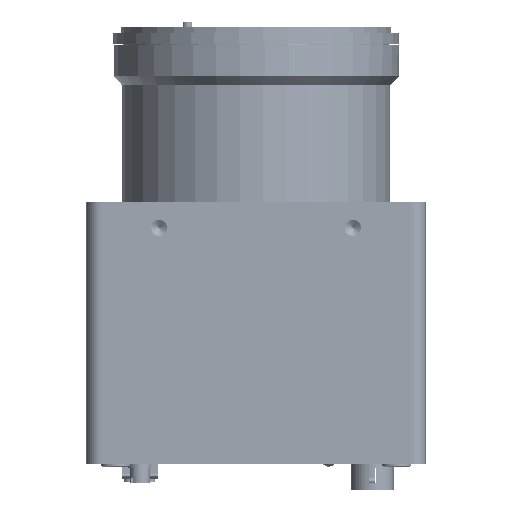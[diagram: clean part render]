
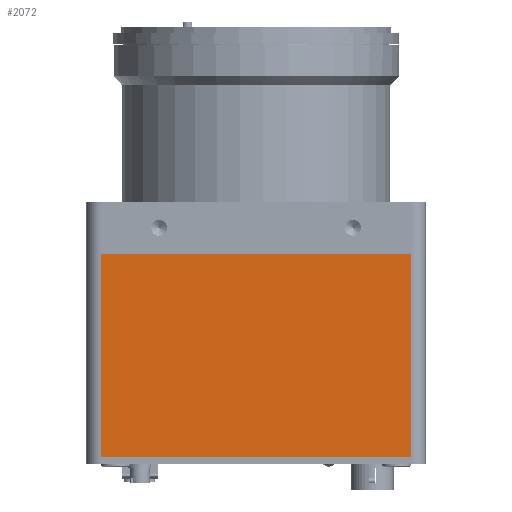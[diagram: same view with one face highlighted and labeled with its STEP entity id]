
A CAD part, left-side view. The second image highlights one B-rep face of the part: STEP entity #2072.
In plain terms, the highlighted planar face has unit normal (-1, 0, 0).
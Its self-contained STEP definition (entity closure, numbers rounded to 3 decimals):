
#2072 = ADVANCED_FACE ( 'NONE', ( #178349 ), #182586, .F. ) ;
#2617 = VERTEX_POINT ( 'NONE', #26585 ) ;
#17309 = VERTEX_POINT ( 'NONE', #88873 ) ;
#19572 = EDGE_LOOP ( 'NONE', ( #87066, #195522, #242047, #167291 ) ) ;
#26585 = CARTESIAN_POINT ( 'NONE',  ( -32., 32., -21. ) ) ;
#29741 = LINE ( 'NONE', #66502, #125870 ) ;
#33626 = LINE ( 'NONE', #56646, #180699 ) ;
#48503 = VERTEX_POINT ( 'NONE', #209642 ) ;
#56646 = CARTESIAN_POINT ( 'NONE',  ( -32., -32., 21. ) ) ;
#62675 = LINE ( 'NONE', #153017, #143670 ) ;
#66502 = CARTESIAN_POINT ( 'NONE',  ( -32., 32., 21. ) ) ;
#67674 = CARTESIAN_POINT ( 'NONE',  ( -32., 35., 21. ) ) ;
#80954 = AXIS2_PLACEMENT_3D ( 'NONE', #67674, #218704, #142372 ) ;
#85895 = DIRECTION ( 'NONE',  ( 0., 0., -1. ) ) ;
#87066 = ORIENTED_EDGE ( 'NONE', *, *, #132110, .T. ) ;
#88873 = CARTESIAN_POINT ( 'NONE',  ( -32., -32., 21. ) ) ;
#91875 = DIRECTION ( 'NONE',  ( 0., -1., 0. ) ) ;
#105057 = CARTESIAN_POINT ( 'NONE',  ( -32., -32., -21. ) ) ;
#108213 = EDGE_CURVE ( 'NONE', #48503, #17309, #62675, .T. ) ;
#113414 = EDGE_CURVE ( 'NONE', #48503, #2617, #29741, .T. ) ;
#125870 = VECTOR ( 'NONE', #85895, 1000. ) ;
#132110 = EDGE_CURVE ( 'NONE', #2617, #187170, #197874, .T. ) ;
#142372 = DIRECTION ( 'NONE',  ( 0., 1., 0. ) ) ;
#143670 = VECTOR ( 'NONE', #91875, 1000. ) ;
#153017 = CARTESIAN_POINT ( 'NONE',  ( -32., 35., 21. ) ) ;
#155083 = CARTESIAN_POINT ( 'NONE',  ( -32., 35., -21. ) ) ;
#167291 = ORIENTED_EDGE ( 'NONE', *, *, #113414, .T. ) ;
#178349 = FACE_OUTER_BOUND ( 'NONE', #19572, .T. ) ;
#180699 = VECTOR ( 'NONE', #190901, 1000. ) ;
#182586 = PLANE ( 'NONE',  #80954 ) ;
#187170 = VERTEX_POINT ( 'NONE', #105057 ) ;
#190901 = DIRECTION ( 'NONE',  ( 0., 0., 1. ) ) ;
#195522 = ORIENTED_EDGE ( 'NONE', *, *, #239631, .T. ) ;
#197874 = LINE ( 'NONE', #155083, #227957 ) ;
#209642 = CARTESIAN_POINT ( 'NONE',  ( -32., 32., 21. ) ) ;
#218704 = DIRECTION ( 'NONE',  ( 1., 0., 0. ) ) ;
#227957 = VECTOR ( 'NONE', #232243, 1000. ) ;
#232243 = DIRECTION ( 'NONE',  ( 0., -1., 0. ) ) ;
#239631 = EDGE_CURVE ( 'NONE', #187170, #17309, #33626, .T. ) ;
#242047 = ORIENTED_EDGE ( 'NONE', *, *, #108213, .F. ) ;
